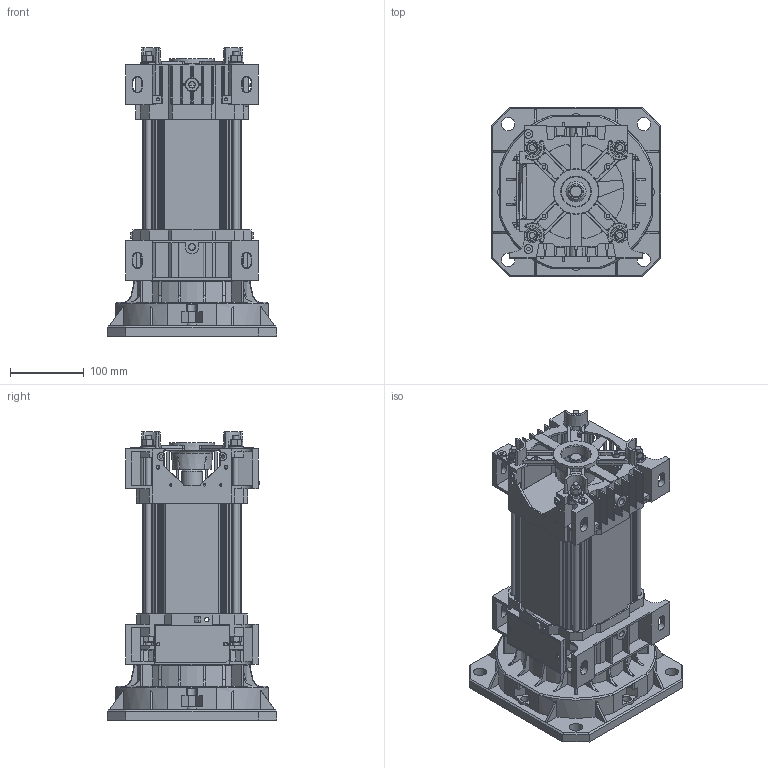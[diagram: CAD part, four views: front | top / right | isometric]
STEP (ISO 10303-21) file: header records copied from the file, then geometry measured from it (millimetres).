
FILE_DESCRIPTION(/* description */ ('Motore Tipo S36 Fl.220 F32-H160 NO Volano NO Piedi'),/* implementation_level */ '2;1');
FILE_NAME(/* name */ 'Y:\ServerTecnico\Mockup Motori x Sito Elmo\Mockup Tipo S36 Size 3 FL220 F32-H160 NO Volano.stp',/* time_stamp */ '2016-10-06T09:44:03+02:00',/* author */ ('aparmini'),/* organization */ (''),/* preprocessor_version */ 'ST-DEVELOPER v16.5',/* originating_system */ 'Autodesk Inventor 2017',/* authorisation */ '');
FILE_SCHEMA (('AUTOMOTIVE_DESIGN { 1 0 10303 214 3 1 1 }'));
Products named in the file (10): Mockup Tipo S36 Size 3 FL220 F32-H160 NO Volano; Mockup CP3XD040N; Mockup CA3SD220N; CAS3 per flangia 220 06-05-2009; CASD SEMI220 SIZE3 06-05-2009; Mockup Statore Size 3 - F32-H160 NO Volano; TGS10; TI08ML285; UNI 5587 - M8; DIN 125-2 - B 8,4
Assembly tree (22 placements, depth 3):
  Mockup Tipo S36 Size 3 FL220 F32-H160 NO Volano
    Mockup CP3XD040N
    Mockup CA3SD220N
      CAS3 per flangia 220 06-05-2009
      CASD SEMI220 SIZE3 06-05-2009
    Mockup Statore Size 3 - F32-H160 NO Volano
    TGS10
    UNI 5587 - M8  x8
    TI08ML285  x4
    DIN 125-2 - B 8,4  x4
Bounding box: 230 x 230 x 391 mm (x, y, z)
Volume: 3989461 mm3; surface area: 718075 mm2
Topology: 21 solids, 21 shells, 2100 faces, 5804 edges, 3766 vertices
Faces by surface type: plane 1147, cylinder 497, cone 356, bspline 46, torus 38, sphere 16
Full cylindrical faces by diameter (mm): 3.2 x3, 4 x8, 4.917 x4, 5 x2, 6.2 x2, 6.647 x8, 8 x4, 8.4 x4, 12 x6, 16 x4, 17 x1, 18 x4, 20 x4, 21 x1, 27.5 x1, 32 x1, 40 x2, 40.1 x1, 42.5 x1, 46 x1, 48 x1, 49.5 x1, 72 x1, 220 x1
Entity records: 63876 total; most frequent: CARTESIAN_POINT 13146, DIRECTION 10677, ORIENTED_EDGE 10572, EDGE_CURVE 5286, AXIS2_PLACEMENT_3D 3707, VERTEX_POINT 3520, LINE 3263, VECTOR 3263
